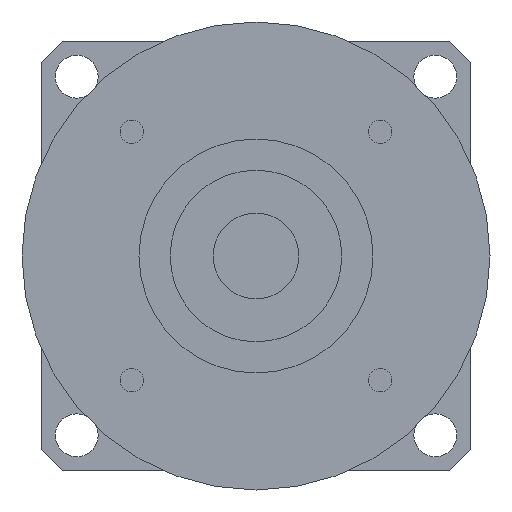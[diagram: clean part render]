
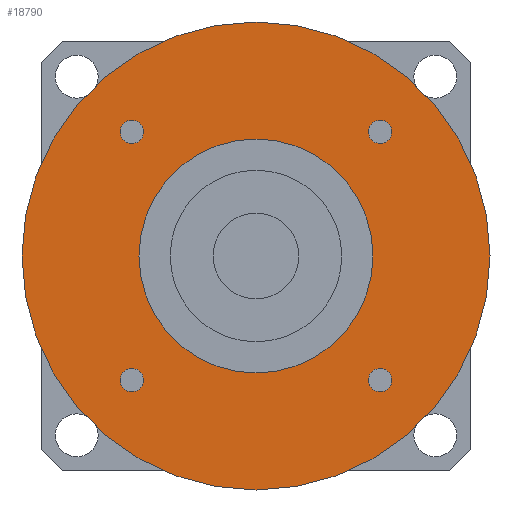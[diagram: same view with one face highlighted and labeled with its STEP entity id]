
A CAD part, left-side view. The second image highlights one B-rep face of the part: STEP entity #18790.
In plain terms, the highlighted planar face has unit normal (-1, 0, 0) as drawn and (0, 0, -1) by its records, which use the part's own axes.
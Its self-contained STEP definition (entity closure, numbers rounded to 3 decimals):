
#17460=CARTESIAN_POINT('',(30.,0.,-59.));
#17470=VERTEX_POINT('',#17460);
#17500=CARTESIAN_POINT('',(0.,0.,-59.
));
#17510=DIRECTION('',(0.,0.,1.));
#17520=DIRECTION('',(0.,-1.,0.));
#17530=AXIS2_PLACEMENT_3D('',#17500,#17510,#17520);
#17540=CIRCLE('',#17530,30.);
#17550=CARTESIAN_POINT('',(0.,-30.,-59.));
#17560=VERTEX_POINT('',#17550);
#17570=EDGE_CURVE('',#17560,#17470,#17540,.T.);
#17590=CARTESIAN_POINT('',(-30.,0.,-59.));
#17600=VERTEX_POINT('',#17590);
#17610=EDGE_CURVE('',#17600,#17560,#17540,.T.);
#17730=CARTESIAN_POINT('',(0.,0.,-59.
));
#17740=DIRECTION('',(0.,0.,1.));
#17750=DIRECTION('',(-1.,0.,0.));
#17760=AXIS2_PLACEMENT_3D('',#17730,#17740,#17750);
#17770=PLANE('',#17760);
#17780=CARTESIAN_POINT('',(15.91,-15.91,-59.));
#17790=DIRECTION('',(0.,0.,-1.));
#17800=DIRECTION('',(1.,0.,0.));
#17810=AXIS2_PLACEMENT_3D('',#17780,#17790,#17800);
#17820=CIRCLE('',#17810,1.5);
#17830=CARTESIAN_POINT('',(17.41,-15.91,-59.));
#17840=VERTEX_POINT('',#17830);
#17850=CARTESIAN_POINT('',(15.91,-17.41,-59.));
#17860=VERTEX_POINT('',#17850);
#17870=EDGE_CURVE('',#17840,#17860,#17820,.T.);
#17880=ORIENTED_EDGE('',*,*,#17870,.F.);
#17890=CARTESIAN_POINT('',(15.91,-14.41,-59.));
#17900=VERTEX_POINT('',#17890);
#17910=EDGE_CURVE('',#17860,#17900,#17820,.T.);
#17920=ORIENTED_EDGE('',*,*,#17910,.F.);
#17930=EDGE_CURVE('',#17900,#17840,#17820,.T.);
#17940=ORIENTED_EDGE('',*,*,#17930,.F.);
#17950=EDGE_LOOP('',(#17940,#17920,#17880));
#17960=FACE_BOUND('',#17950,.T.);
#17970=CARTESIAN_POINT('',(15.91,15.91,-59.));
#17980=DIRECTION('',(0.,0.,-1.));
#17990=DIRECTION('',(0.,1.,0.));
#18000=AXIS2_PLACEMENT_3D('',#17970,#17980,#17990);
#18010=CIRCLE('',#18000,1.5);
#18020=CARTESIAN_POINT('',(15.91,17.41,-59.));
#18030=VERTEX_POINT('',#18020);
#18040=CARTESIAN_POINT('',(17.41,15.91,-59.));
#18050=VERTEX_POINT('',#18040);
#18060=EDGE_CURVE('',#18030,#18050,#18010,.T.);
#18070=ORIENTED_EDGE('',*,*,#18060,.F.);
#18080=CARTESIAN_POINT('',(14.41,15.91,-59.));
#18090=VERTEX_POINT('',#18080);
#18100=EDGE_CURVE('',#18050,#18090,#18010,.T.);
#18110=ORIENTED_EDGE('',*,*,#18100,.F.);
#18120=EDGE_CURVE('',#18090,#18030,#18010,.T.);
#18130=ORIENTED_EDGE('',*,*,#18120,.F.);
#18140=EDGE_LOOP('',(#18130,#18110,#18070));
#18150=FACE_BOUND('',#18140,.T.);
#18160=CARTESIAN_POINT('',(-15.91,15.91,-59.));
#18170=DIRECTION('',(0.,0.,-1.));
#18180=DIRECTION('',(-1.,0.,0.));
#18190=AXIS2_PLACEMENT_3D('',#18160,#18170,#18180);
#18200=CIRCLE('',#18190,1.5);
#18210=CARTESIAN_POINT('',(-17.41,15.91,-59.));
#18220=VERTEX_POINT('',#18210);
#18230=CARTESIAN_POINT('',(-15.91,17.41,-59.));
#18240=VERTEX_POINT('',#18230);
#18250=EDGE_CURVE('',#18220,#18240,#18200,.T.);
#18260=ORIENTED_EDGE('',*,*,#18250,.F.);
#18270=CARTESIAN_POINT('',(-15.91,14.41,-59.));
#18280=VERTEX_POINT('',#18270);
#18290=EDGE_CURVE('',#18240,#18280,#18200,.T.);
#18300=ORIENTED_EDGE('',*,*,#18290,.F.);
#18310=EDGE_CURVE('',#18280,#18220,#18200,.T.);
#18320=ORIENTED_EDGE('',*,*,#18310,.F.);
#18330=EDGE_LOOP('',(#18320,#18300,#18260));
#18340=FACE_BOUND('',#18330,.T.);
#18350=CARTESIAN_POINT('',(-15.91,-15.91,-59.));
#18360=DIRECTION('',(0.,0.,-1.));
#18370=DIRECTION('',(0.,-1.,0.));
#18380=AXIS2_PLACEMENT_3D('',#18350,#18360,#18370);
#18390=CIRCLE('',#18380,1.5);
#18400=CARTESIAN_POINT('',(-15.91,-17.41,-59.));
#18410=VERTEX_POINT('',#18400);
#18420=CARTESIAN_POINT('',(-17.41,-15.91,-59.));
#18430=VERTEX_POINT('',#18420);
#18440=EDGE_CURVE('',#18410,#18430,#18390,.T.);
#18450=ORIENTED_EDGE('',*,*,#18440,.F.);
#18460=CARTESIAN_POINT('',(-14.41,-15.91,-59.));
#18470=VERTEX_POINT('',#18460);
#18480=EDGE_CURVE('',#18430,#18470,#18390,.T.);
#18490=ORIENTED_EDGE('',*,*,#18480,.F.);
#18500=EDGE_CURVE('',#18470,#18410,#18390,.T.);
#18510=ORIENTED_EDGE('',*,*,#18500,.F.);
#18520=EDGE_LOOP('',(#18510,#18490,#18450));
#18530=FACE_BOUND('',#18520,.T.);
#18540=ORIENTED_EDGE('',*,*,#17570,.F.);
#18550=EDGE_CURVE('',#17470,#17600,#17540,.T.);
#18560=ORIENTED_EDGE('',*,*,#18550,.F.);
#18570=ORIENTED_EDGE('',*,*,#17610,.F.);
#18580=EDGE_LOOP('',(#18570,#18560,#18540));
#18590=FACE_OUTER_BOUND('',#18580,.T.);
#18600=CARTESIAN_POINT('',(0.,0.,
-59.));
#18610=DIRECTION('',(0.,0.,1.));
#18620=DIRECTION('',(0.,-1.,0.));
#18630=AXIS2_PLACEMENT_3D('',#18600,#18610,#18620);
#18640=CIRCLE('',#18630,15.);
#18650=CARTESIAN_POINT('',(15.,0.,-59.));
#18660=VERTEX_POINT('',#18650);
#18670=CARTESIAN_POINT('',(-15.,0.,-59.));
#18680=VERTEX_POINT('',#18670);
#18690=EDGE_CURVE('',#18660,#18680,#18640,.T.);
#18700=ORIENTED_EDGE('',*,*,#18690,.T.);
#18710=CARTESIAN_POINT('',(0.,-15.,-59.));
#18720=VERTEX_POINT('',#18710);
#18730=EDGE_CURVE('',#18720,#18660,#18640,.T.);
#18740=ORIENTED_EDGE('',*,*,#18730,.T.);
#18750=EDGE_CURVE('',#18680,#18720,#18640,.T.);
#18760=ORIENTED_EDGE('',*,*,#18750,.T.);
#18770=EDGE_LOOP('',(#18760,#18740,#18700));
#18780=FACE_BOUND('',#18770,.T.);
#18790=ADVANCED_FACE('',(#17960,#18150,#18340,#18530,#18590,#18780),
#17770,.F.);
